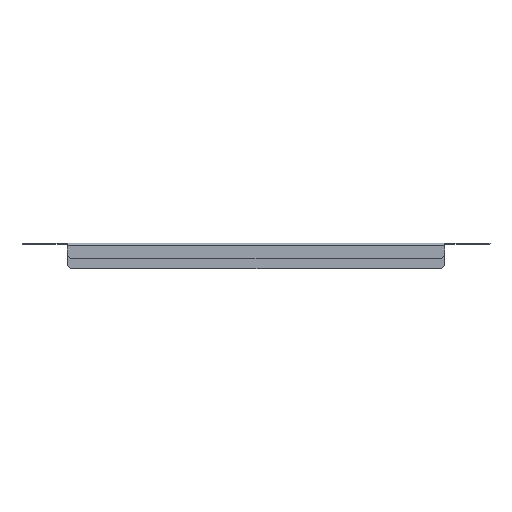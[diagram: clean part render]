
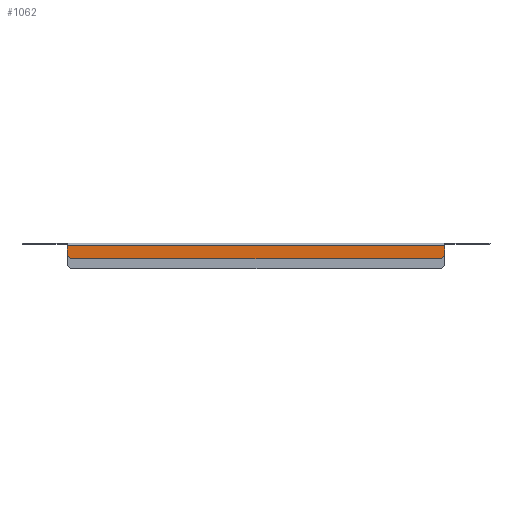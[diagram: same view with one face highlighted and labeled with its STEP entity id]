
A CAD part, front view. The second image highlights one B-rep face of the part: STEP entity #1062.
In plain terms, the highlighted planar face has unit normal (0, -1, 0).
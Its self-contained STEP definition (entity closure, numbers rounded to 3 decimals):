
#22 = LINE ( 'NONE', #23, #1214 ) ;
#23 = CARTESIAN_POINT ( 'NONE',  ( 196.25, -49.5, -1.4 ) ) ;
#25 = DIRECTION ( 'NONE',  ( 0., 0., -1. ) ) ;
#28 = CARTESIAN_POINT ( 'NONE',  ( 196.25, -49.5, -2.9 ) ) ;
#32 = DIRECTION ( 'NONE',  ( 1., 0., 0. ) ) ;
#34 = LINE ( 'NONE', #28, #1232 ) ;
#36 = VERTEX_POINT ( 'NONE', #412 ) ;
#44 = VERTEX_POINT ( 'NONE', #410 ) ;
#76 = VERTEX_POINT ( 'NONE', #409 ) ;
#81 = VERTEX_POINT ( 'NONE', #406 ) ;
#83 = VERTEX_POINT ( 'NONE', #405 ) ;
#84 = VERTEX_POINT ( 'NONE', #404 ) ;
#125 = DIRECTION ( 'NONE',  ( 0., 0., 1. ) ) ;
#126 = DIRECTION ( 'NONE',  ( 0., 1., 0. ) ) ;
#127 = CARTESIAN_POINT ( 'NONE',  ( 196.25, -49.5, -27. ) ) ;
#128 = PLANE ( 'NONE',  #1366 ) ;
#404 = CARTESIAN_POINT ( 'NONE',  ( -192.75, -49.5, -16.3 ) ) ;
#405 = CARTESIAN_POINT ( 'NONE',  ( 192.75, -49.5, -16.3 ) ) ;
#406 = CARTESIAN_POINT ( 'NONE',  ( -196.25, -49.5, -12.8 ) ) ;
#409 = CARTESIAN_POINT ( 'NONE',  ( 196.25, -49.5, -12.8 ) ) ;
#410 = CARTESIAN_POINT ( 'NONE',  ( -196.25, -49.5, -2.9 ) ) ;
#412 = CARTESIAN_POINT ( 'NONE',  ( 196.25, -49.5, -2.9 ) ) ;
#606 = EDGE_LOOP ( 'NONE', ( #646, #648, #647, #650, #649, #651 ) ) ;
#646 = ORIENTED_EDGE ( 'NONE', *, *, #1098, .F. ) ;
#647 = ORIENTED_EDGE ( 'NONE', *, *, #1092, .F. ) ;
#648 = ORIENTED_EDGE ( 'NONE', *, *, #1097, .T. ) ;
#649 = ORIENTED_EDGE ( 'NONE', *, *, #1096, .F. ) ;
#650 = ORIENTED_EDGE ( 'NONE', *, *, #1089, .F. ) ;
#651 = ORIENTED_EDGE ( 'NONE', *, *, #1099, .T. ) ;
#785 = LINE ( 'NONE', #787, #1244 ) ;
#787 = CARTESIAN_POINT ( 'NONE',  ( -196.25, -49.5, -27. ) ) ;
#788 = DIRECTION ( 'NONE',  ( 0., 0., 1. ) ) ;
#789 = LINE ( 'NONE', #790, #1161 ) ;
#790 = CARTESIAN_POINT ( 'NONE',  ( 196.25, -49.5, -12.8 ) ) ;
#791 = DIRECTION ( 'NONE',  ( 0.707, 0., 0.707 ) ) ;
#792 = LINE ( 'NONE', #793, #1211 ) ;
#793 = CARTESIAN_POINT ( 'NONE',  ( 196.25, -49.5, -16.3 ) ) ;
#794 = DIRECTION ( 'NONE',  ( -1., 0., 0. ) ) ;
#795 = LINE ( 'NONE', #796, #1213 ) ;
#796 = CARTESIAN_POINT ( 'NONE',  ( -192.75, -49.5, -16.3 ) ) ;
#797 = DIRECTION ( 'NONE',  ( 0.707, 0., -0.707 ) ) ;
#1062 = ADVANCED_FACE ( 'NONE', ( #1360 ), #128, .F. ) ;
#1089 = EDGE_CURVE ( 'NONE', #44, #36, #34, .T. ) ;
#1092 = EDGE_CURVE ( 'NONE', #36, #76, #22, .T. ) ;
#1096 = EDGE_CURVE ( 'NONE', #81, #44, #785, .T. ) ;
#1097 = EDGE_CURVE ( 'NONE', #83, #76, #789, .T. ) ;
#1098 = EDGE_CURVE ( 'NONE', #83, #84, #792, .T. ) ;
#1099 = EDGE_CURVE ( 'NONE', #81, #84, #795, .T. ) ;
#1161 = VECTOR ( 'NONE', #791, 1000. ) ;
#1211 = VECTOR ( 'NONE', #794, 1000. ) ;
#1213 = VECTOR ( 'NONE', #797, 1000. ) ;
#1214 = VECTOR ( 'NONE', #25, 1000. ) ;
#1232 = VECTOR ( 'NONE', #32, 1000. ) ;
#1244 = VECTOR ( 'NONE', #788, 1000. ) ;
#1360 = FACE_OUTER_BOUND ( 'NONE', #606, .T. ) ;
#1366 = AXIS2_PLACEMENT_3D ( 'NONE', #127, #126, #125 ) ;
